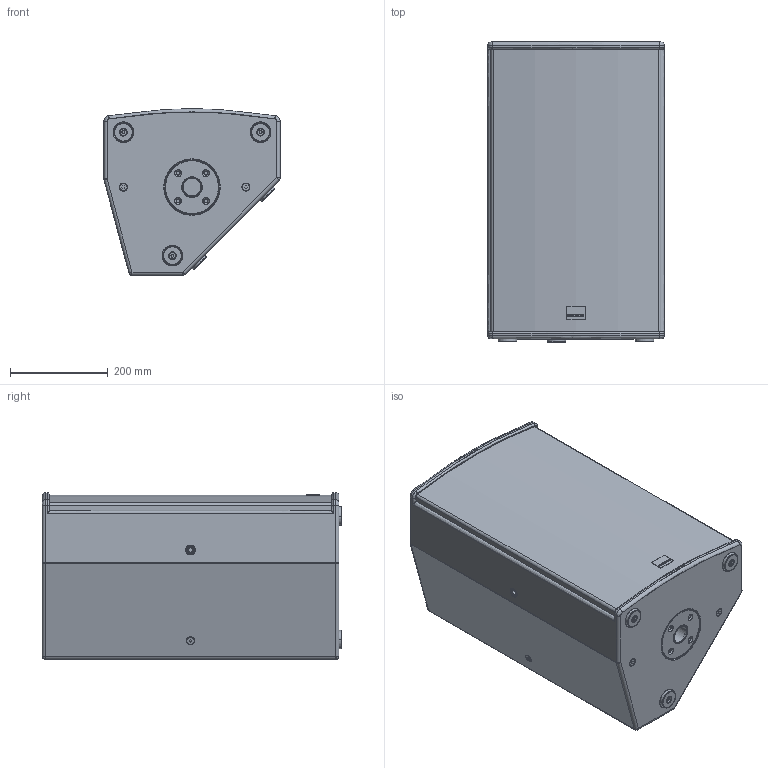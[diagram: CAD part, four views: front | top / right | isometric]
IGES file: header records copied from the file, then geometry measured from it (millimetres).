
Start section: SolidWorks IGES file using analytic representation for surfaces
Global section: file name: C:\Dokumente und Einstellungen\PC_Fabian\Desktop\3d_Dateien_Homepage\A-Serie\SEEBURG_A6.IGS; native system: SolidWorks 2009; preprocessor: SolidWorks 2009; author: PC_Fabian; date: 120928.095019; units: millimetre
Bounding box: 360 x 612 x 340 mm (x, y, z)
Surface area: 2256441.5 mm2 (no closed solid volume)
Topology: 0 solids, 0 shells, 709 faces, 9358 edges, 9356 vertices
Faces by surface type: revolution 371, bspline 338
